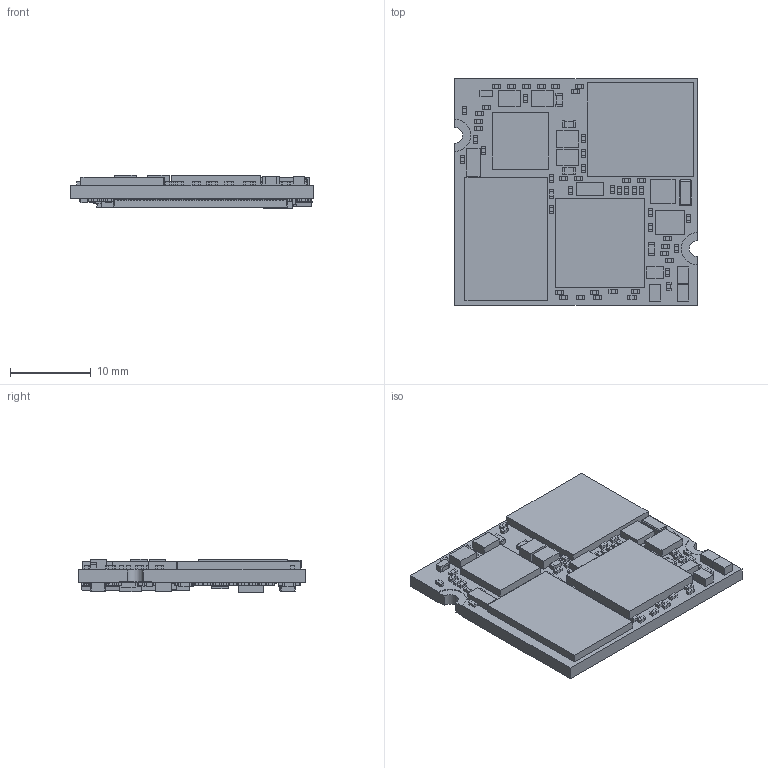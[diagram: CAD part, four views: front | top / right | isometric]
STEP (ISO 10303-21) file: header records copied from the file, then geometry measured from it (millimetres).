
FILE_DESCRIPTION (( 'STEP AP203' ), '1' );
FILE_NAME ('ucm-imx93l 3d model.STEP', '2023-12-19T11:49:54', ( '' ), ( '' ), 'SwSTEP 2.0', 'SolidWorks 2015', '' );
FILE_SCHEMA (( 'CONFIG_CONTROL_DESIGN' ));
Length unit declared in the file: millimetre
Products named in the file (33): Ind2_5x2x1_2-7; SOT23-5-1; RESNET0805 CAY10-103J4LF; SC70-1; SC70-5; XTAL EB2532JA12-24.576M_TR; Ind2_5x2x1_2-4; Ind2_5x2x1_2-6; SOT-563-6-1; Ind2_5x2x1_2-1; RC0603-6; RC0402FR-072K15L; BGA-200-08-10x15-1; BOARD; XTAL3_2x1_5-3; SC70-3; BGA-306-11x11-1; MO 220 USB2514BI-AEZG-TR; XTAL3_2x1_5-1; SC70-6; QFN7x7-56-4_7x4_7-1; MO-229VCED-2-1; ucm-imx93l 3d model; SC70-2; Ind2_5x2x1_2-5; OSC3225-1; 182E10004S-Conn._B2B_2x50 cont._P0.4mm_Plug; QFN3X3-16-1-1; RC0603FR-0712K4L; MO-276BA-1; Ind2_5x2x1_2-3; CRYSTAL 3.2 x 1.5 NX3215SA-32.768K-STD-MUA-8; Ind2_5x2x1_2-2
Assembly tree (255 placements, depth 2):
  ucm-imx93l 3d model
    RC0402FR-072K15L  x211
    Ind2_5x2x1_2-1
    MO-229VCED-2-1
    XTAL3_2x1_5-3
    Ind2_5x2x1_2-5
    RC0603-6
    BGA-306-11x11-1
    SOT-563-6-1
    BOARD
    SC70-5
    Ind2_5x2x1_2-7
    QFN3X3-16-1-1
    Ind2_5x2x1_2-2
    Ind2_5x2x1_2-3
    Ind2_5x2x1_2-4
    SC70-3
    SOT23-5-1
    Ind2_5x2x1_2-6
    OSC3225-1
    BGA-200-08-10x15-1
    SC70-1
    QFN7x7-56-4_7x4_7-1
    SC70-2
    MO-276BA-1
    XTAL3_2x1_5-1
    RC0603FR-0712K4L  x11
    MO 220 USB2514BI-AEZG-TR
    CRYSTAL 3.2 x 1.5 NX3215SA-32.768K-STD-MUA-8
    RESNET0805 CAY10-103J4LF
    SC70-6  x3
    XTAL EB2532JA12-24.576M_TR
    182E10004S-Conn._B2B_2x50 cont._P0.4mm_Plug  x2
Bounding box: 30 x 28 x 4.15 mm (x, y, z)
Volume: 2023.6 mm3; surface area: 4632.8 mm2
Topology: 29 solids, 768 shells, 7002 faces, 17710 edges, 11788 vertices
Faces by surface type: plane 5981, cylinder 1013, cone 8
Full cylindrical faces by diameter (mm): 0.156 x3, 0.75 x1
Entity records: 72561 total; most frequent: CARTESIAN_POINT 11412, DIRECTION 10806, ORIENTED_EDGE 10699, EDGE_CURVE 5372, VECTOR 4306, LINE 4306, VERTEX_POINT 3576, AXIS2_PLACEMENT_3D 3250
